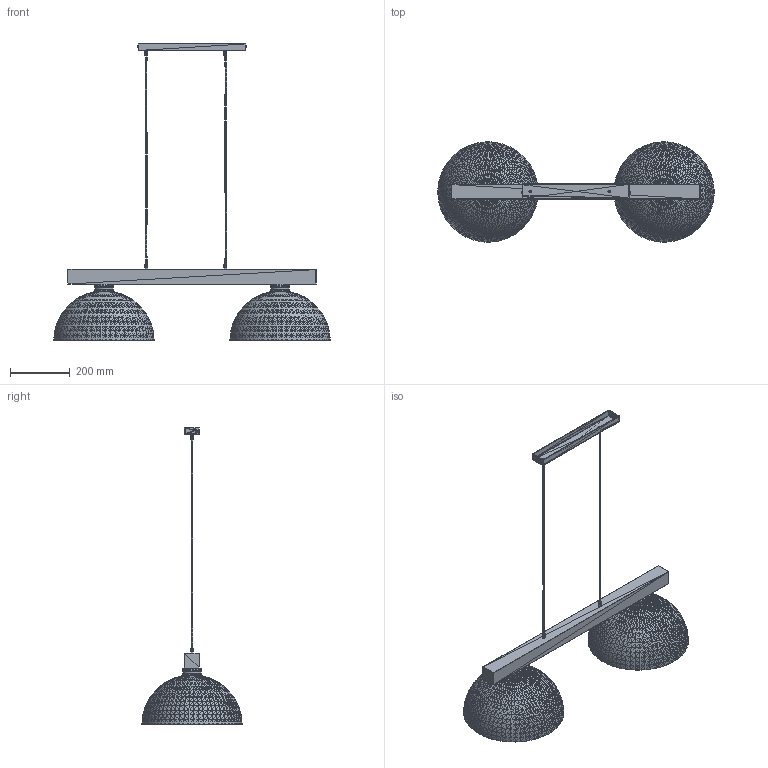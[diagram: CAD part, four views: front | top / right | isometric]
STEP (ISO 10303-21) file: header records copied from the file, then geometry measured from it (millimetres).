
FILE_DESCRIPTION(('FreeCAD Model'),'2;1');
FILE_NAME('Open CASCADE Shape Model','2022-11-30T08:20:46',('Author'),( ''),'Open CASCADE STEP processor 7.6','FreeCAD','Unknown');
FILE_SCHEMA(('AUTOMOTIVE_DESIGN { 1 0 10303 214 1 1 1 1 }'));
Length unit declared in the file: millimetre
Products named in the file (21): Unnamed; Mesh020 (Solid); Mesh001001 (Solid); Mesh002001 (Solid); Mesh003001 (Solid); Mesh004001 (Solid); Mesh005001 (Solid); Mesh006001 (Solid); Mesh007001 (Solid); Mesh008001 (Solid); Mesh009001 (Solid); Mesh010001 (Solid); Mesh011001 (Solid); Mesh012001 (Solid); Mesh013001 (Solid); Mesh014001 (Solid); Mesh015001 (Solid); Mesh016001 (Solid); Mesh017001 (Solid); Mesh018001 (Solid); Mesh019001 (Solid)
Assembly tree (20 placements, depth 2):
  Unnamed
    Mesh020 (Solid)
    Mesh001001 (Solid)
    Mesh002001 (Solid)
    Mesh003001 (Solid)
    Mesh004001 (Solid)
    Mesh005001 (Solid)
    Mesh006001 (Solid)
    Mesh007001 (Solid)
    Mesh008001 (Solid)
    Mesh009001 (Solid)
    Mesh010001 (Solid)
    Mesh011001 (Solid)
    Mesh012001 (Solid)
    Mesh013001 (Solid)
    Mesh014001 (Solid)
    Mesh015001 (Solid)
    Mesh016001 (Solid)
    Mesh017001 (Solid)
    Mesh018001 (Solid)
    Mesh019001 (Solid)
Bounding box: 922.88 x 334.76 x 991.35 mm (x, y, z)
Volume: 2603991.3 mm3; surface area: 991831.4 mm2
Topology: 11 solids, 20 shells, 16596 faces, 25020 edges, 8448 vertices
Faces by surface type: plane 16596
Entity records: 648918 total; most frequent: DIRECTION 108042, CARTESIAN_POINT 99873, LINE 74808, VECTOR 74808, ORIENTED_EDGE 49788, PCURVE 49788, DEFINITIONAL_REPRESENTATION 49788, EDGE_CURVE 25020
